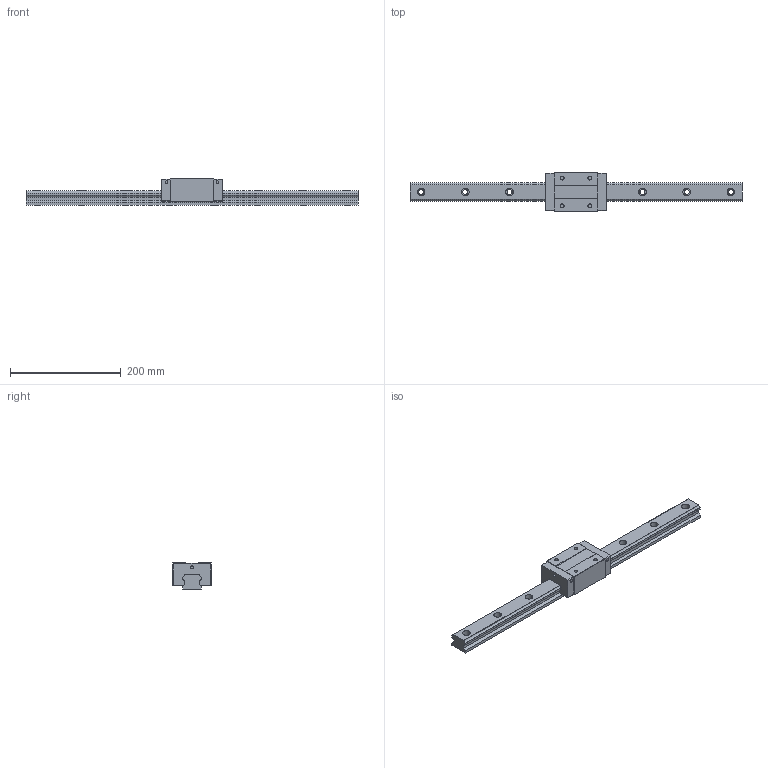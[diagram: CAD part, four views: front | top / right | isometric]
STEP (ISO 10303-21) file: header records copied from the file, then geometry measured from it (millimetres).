
FILE_DESCRIPTION (( 'STEP AP203' ), '1' );
FILE_NAME ('TRS35VN-XN.STEP', '2024-06-12T08:40:09', ( '' ), ( '' ), 'SwSTEP 2.0', 'SolidWorks 2022', '' );
FILE_SCHEMA (( 'CONFIG_CONTROL_DESIGN' ));
Length unit declared in the file: millimetre
Products named in the file (1): TRS35VN-XN
Bounding box: 600 x 70 x 48 mm (x, y, z)
Volume: 690227 mm3; surface area: 116716.8 mm2
Topology: 2 solids, 2 shells, 178 faces, 464 edges, 308 vertices
Faces by surface type: plane 90, cylinder 88
Entity records: 5619 total; most frequent: DIRECTION 998, CARTESIAN_POINT 951, ORIENTED_EDGE 928, EDGE_CURVE 464, AXIS2_PLACEMENT_3D 355, VERTEX_POINT 308, VECTOR 288, LINE 288
